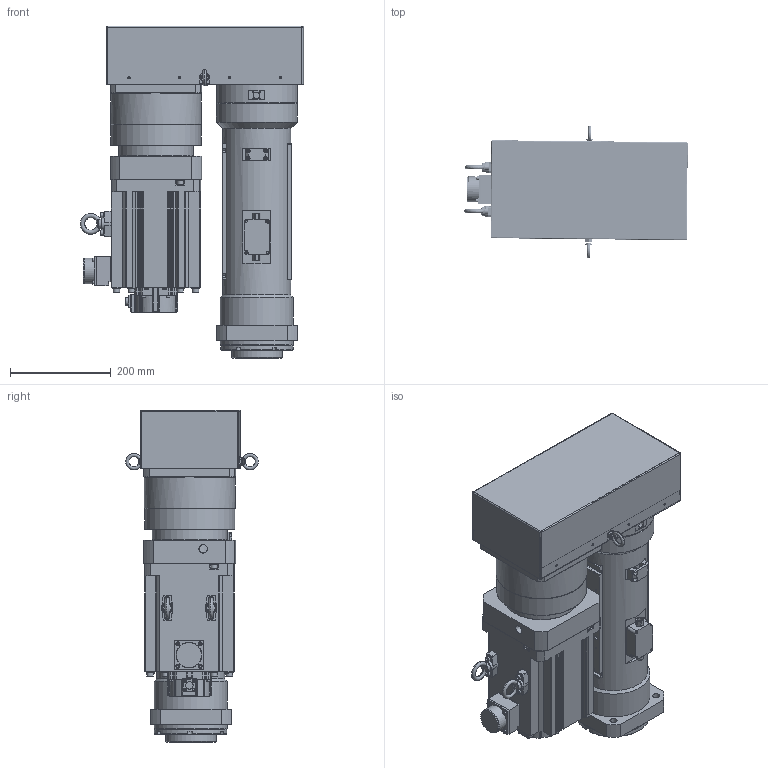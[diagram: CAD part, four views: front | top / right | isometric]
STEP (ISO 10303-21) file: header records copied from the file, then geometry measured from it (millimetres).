
FILE_DESCRIPTION( ('This file contains a STEP AP42 implementation' ,'as created by ZW3D STEP Interface translator.') ,'2;1' );
FILE_NAME( 'OACIS-DC-P080-P100-200-150-A6V200_v20.51.stp' ,'26 429.174050', (''), ('ZWCAD Software Co.'), 'Version 1.0', 'ZW3D to STEP translator', '' );
FILE_SCHEMA(('AUTOMOTIVE_DESIGN { 1 0 10303 214 1 1 1 1 }'));
Length unit declared in the file: millimetre
Products named in the file (1): 0
Bounding box: 443 x 262.74 x 658 mm (x, y, z)
Volume: 20042657.3 mm3; surface area: 2436318.7 mm2
Topology: 50 solids, 69 shells, 2415 faces, 6099 edges, 3959 vertices
Faces by surface type: cylinder 984, plane 967, cone 327, torus 107, bspline 18, sphere 12
Full cylindrical faces by diameter (mm): 1.6 x8, 3.3 x72, 4.2 x18, 4.3 x22, 4.5 x8, 5 x4, 5.3 x4, 5.5 x6, 6.647 x2, 6.8 x69, 7 x8, 8 x28, 8.4 x8, 8.5 x1, 9 x19, 9.5 x4, 10 x6, 10.106 x4, 10.2 x8, 11 x4, 13 x12, 13.083 x1, 13.5 x4, 14 x23, 14.8 x1, 15 x8, 16 x10, 16.5 x2, 17.294 x1, 18 x5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
Entity records: 83344 total; most frequent: CARTESIAN_POINT 19655, DIRECTION 13107, ORIENTED_EDGE 11974, EDGE_CURVE 6006, AXIS2_PLACEMENT_3D 5010, VERTEX_POINT 3956, VECTOR 3087, LINE 3087
